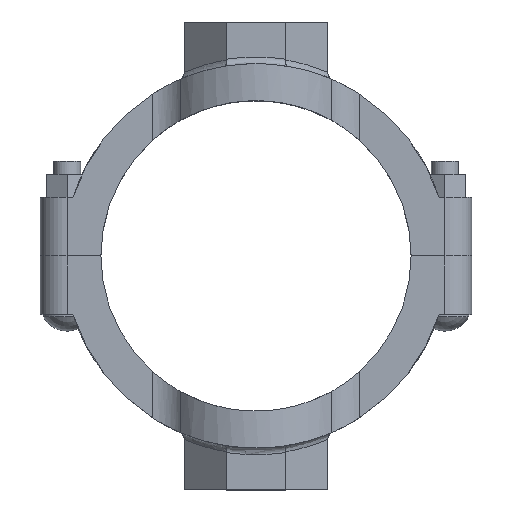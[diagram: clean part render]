
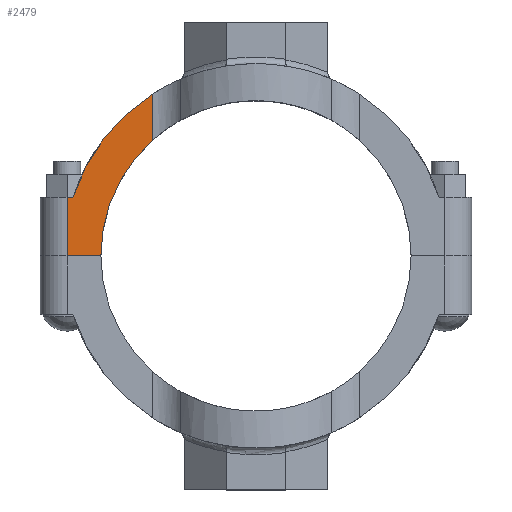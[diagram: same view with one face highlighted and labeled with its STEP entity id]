
A CAD part, top view. The second image highlights one B-rep face of the part: STEP entity #2479.
In plain terms, the highlighted planar face has unit normal (0, 0, 1) as drawn and (0, 0, -1) by its records, which use the part's own axes.
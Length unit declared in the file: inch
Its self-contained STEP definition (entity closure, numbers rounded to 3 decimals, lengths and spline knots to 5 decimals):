
#247=FACE_OUTER_BOUND('',#390,.T.);
#390=EDGE_LOOP('',(#1816,#1817,#1818,#1819,#1820,#1821));
#545=LINE('',#4151,#731);
#563=LINE('',#4373,#749);
#564=LINE('',#4375,#750);
#565=LINE('',#4376,#751);
#731=VECTOR('',#3097,0.3937);
#749=VECTOR('',#3161,0.3937);
#750=VECTOR('',#3162,0.3937);
#751=VECTOR('',#3163,0.3937);
#865=CIRCLE('',#2665,5.34);
#893=CIRCLE('',#2723,4.3125);
#998=VERTEX_POINT('',#3991);
#999=VERTEX_POINT('',#3993);
#1039=VERTEX_POINT('',#4149);
#1054=VERTEX_POINT('',#4296);
#1055=VERTEX_POINT('',#4309);
#1063=VERTEX_POINT('',#4374);
#1255=EDGE_CURVE('',#999,#998,#865,.T.);
#1310=EDGE_CURVE('',#998,#1039,#545,.T.);
#1334=EDGE_CURVE('',#1055,#1054,#893,.T.);
#1345=EDGE_CURVE('',#1054,#999,#563,.T.);
#1346=EDGE_CURVE('',#1063,#1039,#564,.T.);
#1347=EDGE_CURVE('',#1063,#1055,#565,.T.);
#1816=ORIENTED_EDGE('',*,*,#1334,.T.);
#1817=ORIENTED_EDGE('',*,*,#1345,.T.);
#1818=ORIENTED_EDGE('',*,*,#1255,.T.);
#1819=ORIENTED_EDGE('',*,*,#1310,.T.);
#1820=ORIENTED_EDGE('',*,*,#1346,.F.);
#1821=ORIENTED_EDGE('',*,*,#1347,.T.);
#2251=PLANE('',#2727);
#2479=ADVANCED_FACE('',(#247),#2251,.T.);
#2665=AXIS2_PLACEMENT_3D('',#3994,#2986,#2987);
#2723=AXIS2_PLACEMENT_3D('',#4310,#3146,#3147);
#2727=AXIS2_PLACEMENT_3D('',#4372,#3159,#3160);
#2986=DIRECTION('center_axis',(0.,0.,-1.));
#2987=DIRECTION('ref_axis',(0.953,0.304,0.));
#3097=DIRECTION('',(1.,0.,0.));
#3146=DIRECTION('center_axis',(0.,0.,1.));
#3147=DIRECTION('ref_axis',(-1.,0.,0.));
#3159=DIRECTION('center_axis',(0.,0.,-1.));
#3160=DIRECTION('ref_axis',(-1.,0.,0.));
#3161=DIRECTION('',(0.,1.,0.));
#3162=DIRECTION('',(0.,1.,0.));
#3163=DIRECTION('',(-1.,0.,0.));
#3991=CARTESIAN_POINT('',(5.08675,1.625,-1.25));
#3993=CARTESIAN_POINT('',(2.88037,4.49656,-1.25));
#3994=CARTESIAN_POINT('Origin',(0.,0.,-1.25));
#4149=CARTESIAN_POINT('',(5.25,1.625,-1.25));
#4151=CARTESIAN_POINT('',(5.16837,1.625,-1.25));
#4296=CARTESIAN_POINT('',(2.88037,3.20954,-1.25));
#4309=CARTESIAN_POINT('',(4.3125,0.,-1.25));
#4310=CARTESIAN_POINT('Origin',(0.,0.,-1.25));
#4372=CARTESIAN_POINT('Origin',(5.25,0.,-1.25));
#4373=CARTESIAN_POINT('',(2.88037,0.,-1.25));
#4374=CARTESIAN_POINT('',(5.25,0.,-1.25));
#4375=CARTESIAN_POINT('',(5.25,0.,-1.25));
#4376=CARTESIAN_POINT('',(5.25,0.,-1.25));
